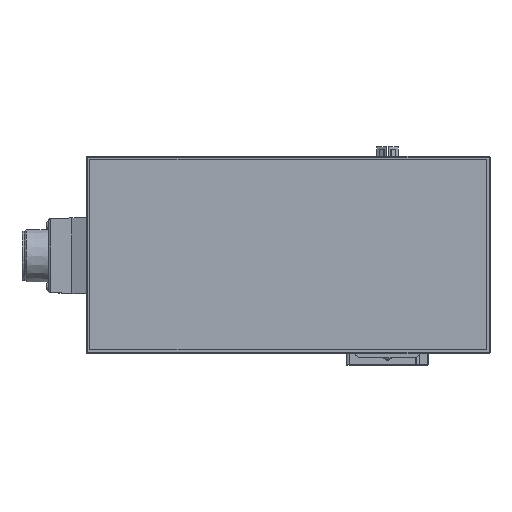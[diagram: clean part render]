
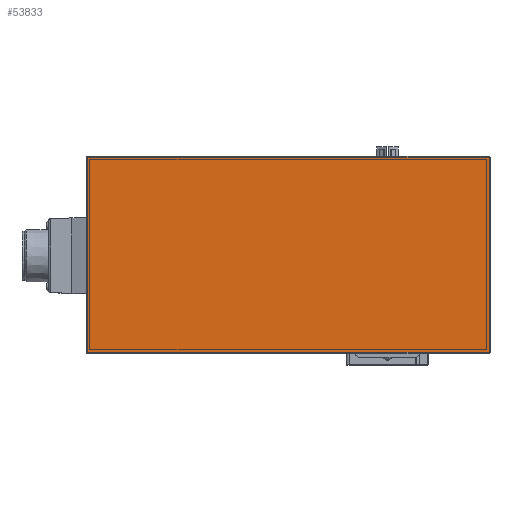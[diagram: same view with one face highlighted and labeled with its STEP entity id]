
A CAD part, top view. The second image highlights one B-rep face of the part: STEP entity #53833.
In plain terms, the highlighted planar face has unit normal (0, 0, 1).
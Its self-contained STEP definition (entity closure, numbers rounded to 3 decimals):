
#53794=CARTESIAN_POINT('',(-60.,62.5,568.5));
#53795=DIRECTION('',(0.,1.,0.));
#53796=DIRECTION('',(0.,-0.,1.));
#53797=AXIS2_PLACEMENT_3D('',#53794,#53796,#53795);
#53798=PLANE('',#53797);
#53799=CARTESIAN_POINT('',(-181.5,-59.,568.5));
#53800=VERTEX_POINT('',#53799);
#53801=CARTESIAN_POINT('',(61.5,-59.,568.5));
#53802=VERTEX_POINT('',#53801);
#53803=CARTESIAN_POINT('',(-181.5,-59.,568.5));
#53804=DIRECTION('',(1.,0.,0.));
#53805=VECTOR('',#53804,243.);
#53806=LINE('',#53803,#53805);
#53807=EDGE_CURVE('',#53800,#53802,#53806,.T.);
#53808=ORIENTED_EDGE('E4129',*,*,#53807,.T.);
#53809=CARTESIAN_POINT('',(61.5,59.,568.5));
#53810=VERTEX_POINT('',#53809);
#53811=CARTESIAN_POINT('',(61.5,-59.,568.5));
#53812=DIRECTION('',(0.,1.,0.));
#53813=VECTOR('',#53812,118.);
#53814=LINE('',#53811,#53813);
#53815=EDGE_CURVE('',#53802,#53810,#53814,.T.);
#53816=ORIENTED_EDGE('E4130',*,*,#53815,.T.);
#53817=CARTESIAN_POINT('',(-181.5,59.,568.5));
#53818=VERTEX_POINT('',#53817);
#53819=CARTESIAN_POINT('',(61.5,59.,568.5));
#53820=DIRECTION('',(-1.,0.,0.));
#53821=VECTOR('',#53820,243.);
#53822=LINE('',#53819,#53821);
#53823=EDGE_CURVE('',#53810,#53818,#53822,.T.);
#53824=ORIENTED_EDGE('E4131',*,*,#53823,.T.);
#53825=CARTESIAN_POINT('',(-181.5,59.,568.5));
#53826=DIRECTION('',(0.,-1.,0.));
#53827=VECTOR('',#53826,118.);
#53828=LINE('',#53825,#53827);
#53829=EDGE_CURVE('',#53818,#53800,#53828,.T.);
#53830=ORIENTED_EDGE('E4132',*,*,#53829,.T.);
#53831=EDGE_LOOP('',(#53808,#53816,#53824,#53830));
#53832=FACE_OUTER_BOUND('',#53831,.T.);
#53833=ADVANCED_FACE('F1631',(#53832),#53798,.T.);
